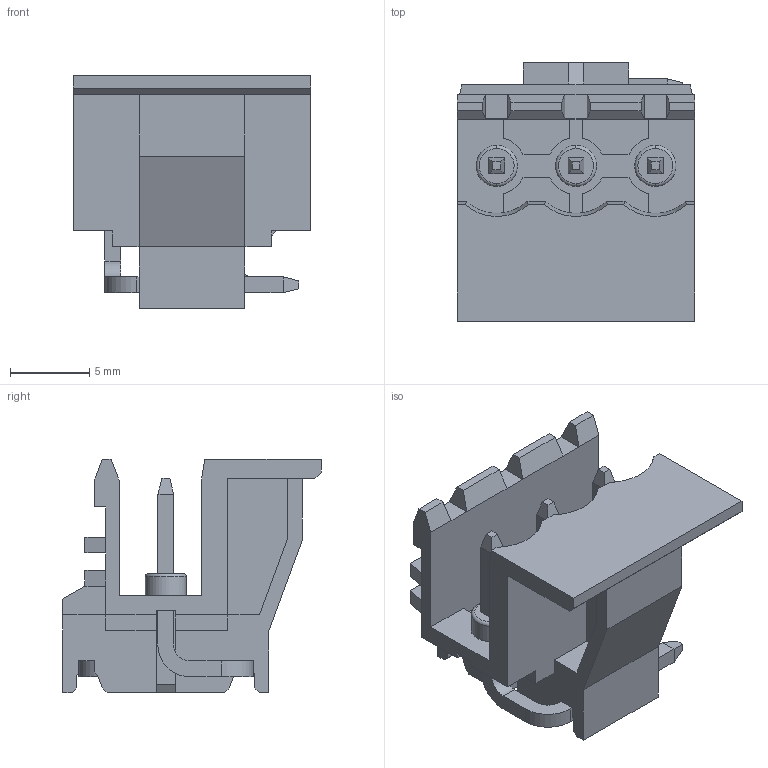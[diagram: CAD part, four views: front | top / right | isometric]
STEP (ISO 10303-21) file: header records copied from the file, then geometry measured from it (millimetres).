
FILE_DESCRIPTION(('FreeCAD Model'),'2;1');
FILE_NAME('Open CASCADE Shape Model','2023-04-26T12:06:54',('Author'),( ''),'Open CASCADE STEP processor 7.6','FreeCAD','Unknown');
FILE_SCHEMA(('AUTOMOTIVE_DESIGN { 1 0 10303 214 1 1 1 1 }'));
Length unit declared in the file: millimetre
Products named in the file (1): BR1703-PD
Bounding box: 15 x 16.3 x 14.7 mm (x, y, z)
Volume: 982 mm3; surface area: 2060.4 mm2
Topology: 1 solids, 1 shells, 296 faces, 814 edges, 521 vertices
Faces by surface type: plane 257, cylinder 30, torus 6, cone 3
Entity records: 19904 total; most frequent: CARTESIAN_POINT 3514, DIRECTION 3046, LINE 2251, VECTOR 2251, ORIENTED_EDGE 1628, PCURVE 1628, DEFINITIONAL_REPRESENTATION 1628, EDGE_CURVE 814
